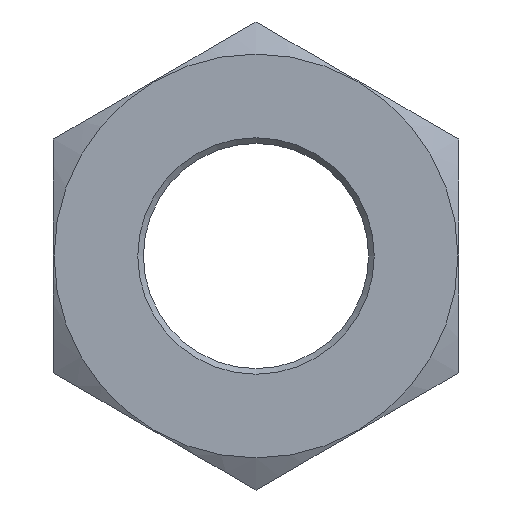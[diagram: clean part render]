
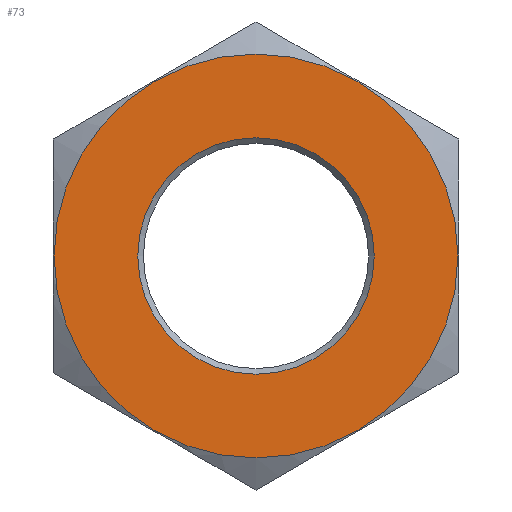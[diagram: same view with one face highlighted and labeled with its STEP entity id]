
A CAD part, left-side view. The second image highlights one B-rep face of the part: STEP entity #73.
In plain terms, the highlighted planar face has unit normal (-1, 0, 0).
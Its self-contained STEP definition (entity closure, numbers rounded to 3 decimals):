
#73 = ADVANCED_FACE( '', ( #150, #151 ), #152, .F. );
#150 = FACE_BOUND( '', #219, .T. );
#151 = FACE_OUTER_BOUND( '', #220, .T. );
#152 = PLANE( '', #221 );
#219 = EDGE_LOOP( '', ( #342 ) );
#220 = EDGE_LOOP( '', ( #343 ) );
#221 = AXIS2_PLACEMENT_3D( '', #344, #345, #346 );
#342 = ORIENTED_EDGE( '', *, *, #388, .T. );
#343 = ORIENTED_EDGE( '', *, *, #386, .T. );
#344 = CARTESIAN_POINT( '', ( -24., 0., 0. ) );
#345 = DIRECTION( '', ( 1., 0., 0. ) );
#346 = DIRECTION( '', ( 0., 1., 0. ) );
#386 = EDGE_CURVE( '', #451, #451, #452, .T. );
#388 = EDGE_CURVE( '', #454, #454, #455, .T. );
#451 = VERTEX_POINT( '', #680 );
#452 = CIRCLE( '', #681, 17.935 );
#454 = VERTEX_POINT( '', #683 );
#455 = CIRCLE( '', #684, 10.5 );
#680 = CARTESIAN_POINT( '', ( -24., 0., 17.935 ) );
#681 = AXIS2_PLACEMENT_3D( '', #718, #719, #720 );
#683 = CARTESIAN_POINT( '', ( -24., 10.5, 0. ) );
#684 = AXIS2_PLACEMENT_3D( '', #721, #722, #723 );
#718 = CARTESIAN_POINT( '', ( -24., 0., 0. ) );
#719 = DIRECTION( '', ( -1., 0., 0. ) );
#720 = DIRECTION( '', ( 0., 0., 1. ) );
#721 = CARTESIAN_POINT( '', ( -24., 0., 0. ) );
#722 = DIRECTION( '', ( 1., 0., 0. ) );
#723 = DIRECTION( '', ( 0., 1., 0. ) );
